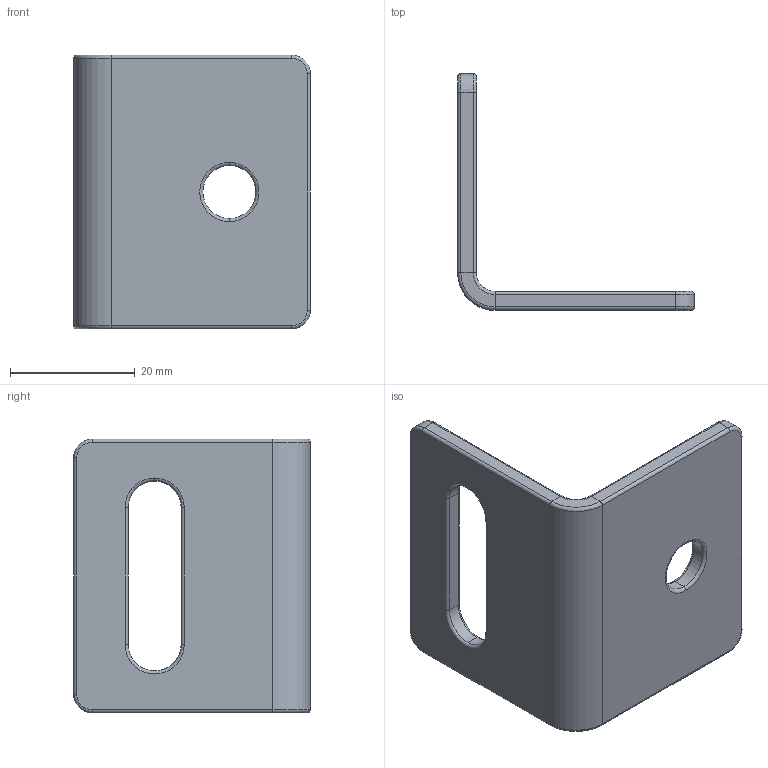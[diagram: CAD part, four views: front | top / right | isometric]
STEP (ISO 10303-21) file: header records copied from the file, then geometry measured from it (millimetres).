
FILE_DESCRIPTION (( 'STEP AP214' ), '1' );
FILE_NAME ('50-454030-Ì8.STEP', '2022-02-18T13:32:08', ( 'Home' ), ( '' ), 'SwSTEP 2.0', 'SolidWorks 2020', '' );
FILE_SCHEMA (( 'AUTOMOTIVE_DESIGN' ));
Length unit declared in the file: millimetre
Products named in the file (1): 50-454030-ﾌ8
Bounding box: 38 x 38 x 44 mm (x, y, z)
Volume: 8421.7 mm3; surface area: 6466.6 mm2
Topology: 1 solids, 1 shells, 63 faces, 139 edges, 78 vertices
Faces by surface type: cylinder 27, torus 22, plane 14
Entity records: 1767 total; most frequent: DIRECTION 351, CARTESIAN_POINT 281, ORIENTED_EDGE 278, AXIS2_PLACEMENT_3D 148, EDGE_CURVE 139, CIRCLE 84, VERTEX_POINT 78, EDGE_LOOP 67
